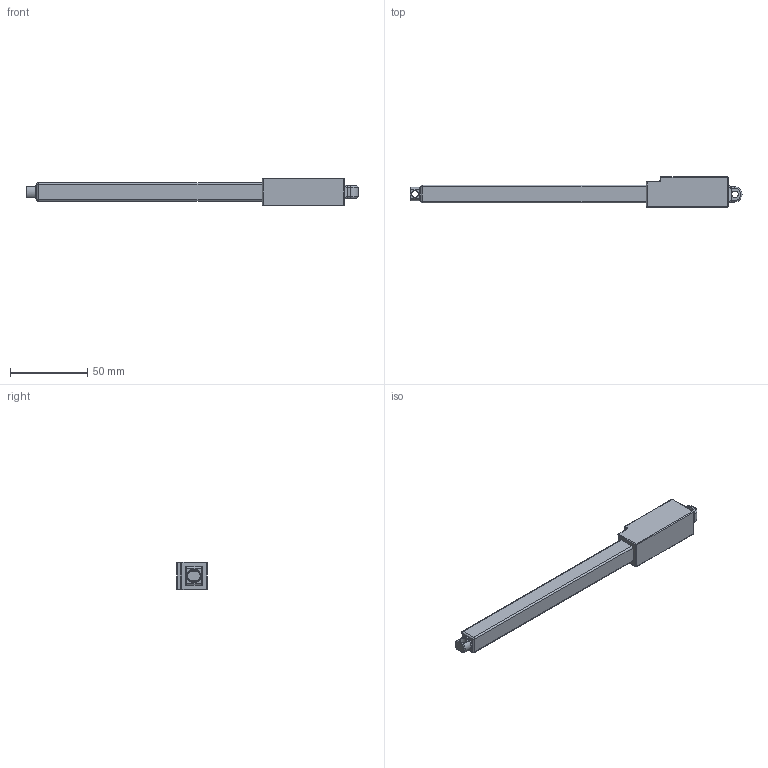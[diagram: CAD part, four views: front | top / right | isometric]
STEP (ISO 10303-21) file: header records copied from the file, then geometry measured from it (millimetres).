
FILE_DESCRIPTION(/* description */ ('Alibre Inc.'),/* implementation_level */ '2;1');
FILE_NAME(/* name */ 'export0',/* time_stamp */ '2013-08-15T14:39:12-06:00',/* author */ (''),/* organization */ (''),/* preprocessor_version */ 'ST-DEVELOPER v14',/* originating_system */ 'Alibre',/* authorisation */ '');
FILE_SCHEMA (('ALIBRE_SCHEMA','CONFIG_CONTROL_DESIGN'));
Length unit declared in the file: centimetre
Products named in the file (1): ID_1
Bounding box: 215 x 20 x 18 mm (x, y, z)
Volume: 39535.3 mm3; surface area: 11766.6 mm2
Topology: 1 solids, 1 shells, 87 faces, 195 edges, 96 vertices
Faces by surface type: cylinder 42, plane 21, sphere 14, torus 6, bspline 4
Full cylindrical faces by diameter (mm): 4.25 x2, 8.9 x1
Entity records: 5859 total; most frequent: CARTESIAN_POINT 1206, DIRECTION 583, CONSTRAINTPAIRUV 411, ORIENTED_EDGE 348, REFERENCEDEPENDENTUV 273, VECTOR 264, PERSISTANTTOPOLOGYATTRIBUTE 258, REFERENCEPOINTUV 208
